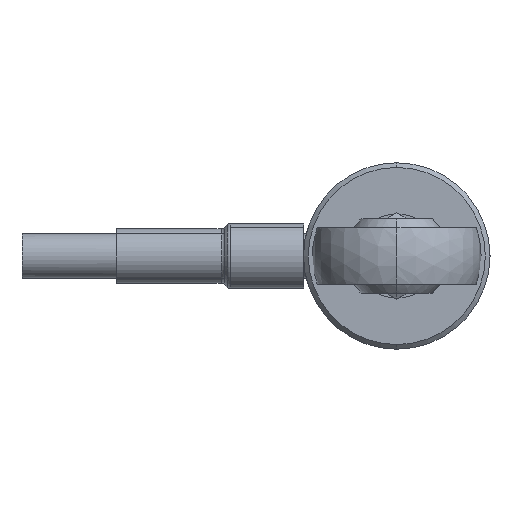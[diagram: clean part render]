
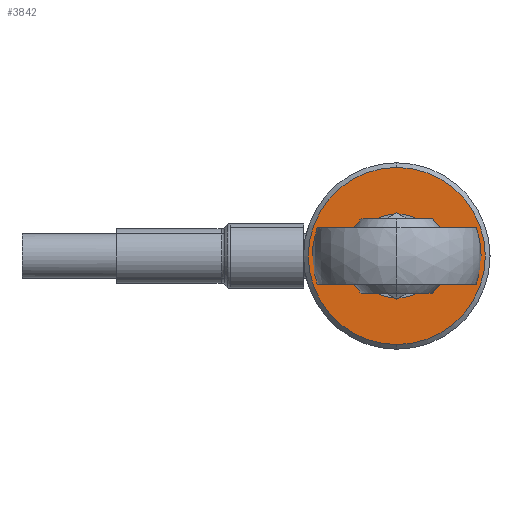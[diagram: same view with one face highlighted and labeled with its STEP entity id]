
A CAD part, left-side view. The second image highlights one B-rep face of the part: STEP entity #3842.
In plain terms, the highlighted planar face has unit normal (-1, 0, 0).
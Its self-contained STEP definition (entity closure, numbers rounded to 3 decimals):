
#33 = CARTESIAN_POINT ( 'NONE',  ( 0., 0., 0. ) ) ;
#294 = CARTESIAN_POINT ( 'NONE',  ( 0., 0., 0. ) ) ;
#321 = EDGE_CURVE ( 'NONE', #2059, #2034, #4167, .T. ) ;
#450 = EDGE_CURVE ( 'NONE', #512, #620, #2877, .T. ) ;
#503 = FACE_OUTER_BOUND ( 'NONE', #2230, .T. ) ;
#512 = VERTEX_POINT ( 'NONE', #3077 ) ;
#620 = VERTEX_POINT ( 'NONE', #2191 ) ;
#753 = AXIS2_PLACEMENT_3D ( 'NONE', #2997, #2033, #2685 ) ;
#754 = ORIENTED_EDGE ( 'NONE', *, *, #1244, .F. ) ;
#970 = CARTESIAN_POINT ( 'NONE',  ( 0., 0., 0. ) ) ;
#1030 = DIRECTION ( 'NONE',  ( -1., 0., 0. ) ) ;
#1244 = EDGE_CURVE ( 'NONE', #620, #512, #3649, .T. ) ;
#1448 = CARTESIAN_POINT ( 'NONE',  ( 0., 0., -9.45 ) ) ;
#1748 = DIRECTION ( 'NONE',  ( 1., 0., 0. ) ) ;
#1941 = DIRECTION ( 'NONE',  ( -1., 0., 0. ) ) ;
#1945 = ORIENTED_EDGE ( 'NONE', *, *, #2993, .T. ) ;
#1971 = PLANE ( 'NONE',  #2721 ) ;
#2030 = AXIS2_PLACEMENT_3D ( 'NONE', #294, #1941, #2941 ) ;
#2033 = DIRECTION ( 'NONE',  ( -1., 0., 0. ) ) ;
#2034 = VERTEX_POINT ( 'NONE', #4025 ) ;
#2059 = VERTEX_POINT ( 'NONE', #1448 ) ;
#2165 = CIRCLE ( 'NONE', #2988, 9.45 ) ;
#2191 = CARTESIAN_POINT ( 'NONE',  ( 0., 0., 4.5 ) ) ;
#2230 = EDGE_LOOP ( 'NONE', ( #3318, #1945 ) ) ;
#2250 = AXIS2_PLACEMENT_3D ( 'NONE', #970, #3585, #3598 ) ;
#2391 = DIRECTION ( 'NONE',  ( 0., 0., -1. ) ) ;
#2685 = DIRECTION ( 'NONE',  ( 0., 0., -1. ) ) ;
#2721 = AXIS2_PLACEMENT_3D ( 'NONE', #3322, #1748, #2391 ) ;
#2877 = CIRCLE ( 'NONE', #753, 4.5 ) ;
#2941 = DIRECTION ( 'NONE',  ( 0., 0., -1. ) ) ;
#2988 = AXIS2_PLACEMENT_3D ( 'NONE', #33, #1030, #3570 ) ;
#2993 = EDGE_CURVE ( 'NONE', #2034, #2059, #2165, .T. ) ;
#2997 = CARTESIAN_POINT ( 'NONE',  ( 0., 0., 0. ) ) ;
#3077 = CARTESIAN_POINT ( 'NONE',  ( 0., 0., -4.5 ) ) ;
#3318 = ORIENTED_EDGE ( 'NONE', *, *, #321, .T. ) ;
#3322 = CARTESIAN_POINT ( 'NONE',  ( 0., 0., 0. ) ) ;
#3323 = FACE_BOUND ( 'NONE', #3608, .T. ) ;
#3570 = DIRECTION ( 'NONE',  ( 0., 0., -1. ) ) ;
#3585 = DIRECTION ( 'NONE',  ( -1., 0., 0. ) ) ;
#3598 = DIRECTION ( 'NONE',  ( 0., 0., -1. ) ) ;
#3608 = EDGE_LOOP ( 'NONE', ( #4247, #754 ) ) ;
#3649 = CIRCLE ( 'NONE', #2030, 4.5 ) ;
#3842 = ADVANCED_FACE ( 'NONE', ( #3323, #503 ), #1971, .F. ) ;
#4025 = CARTESIAN_POINT ( 'NONE',  ( 0., 0., 9.45 ) ) ;
#4167 = CIRCLE ( 'NONE', #2250, 9.45 ) ;
#4247 = ORIENTED_EDGE ( 'NONE', *, *, #450, .F. ) ;
